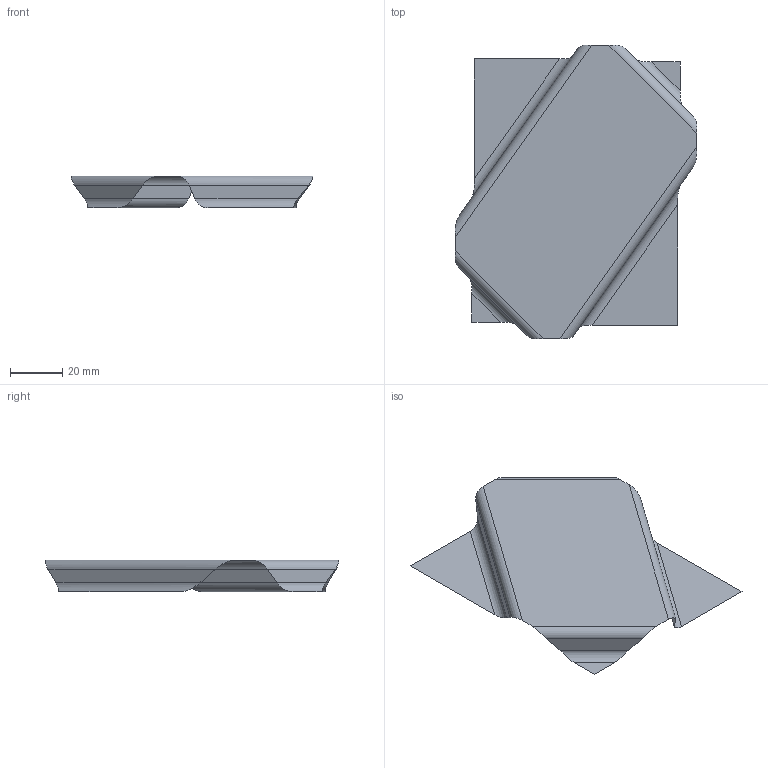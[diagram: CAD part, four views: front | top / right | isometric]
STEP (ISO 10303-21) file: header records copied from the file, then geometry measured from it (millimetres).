
FILE_DESCRIPTION(('CATIA V5 STEP Exchange'),'2;1');
FILE_NAME('C:\_Andres\UNIVERSIDAD\IQS\ASIGNATURAS\DAO\EXF\EXF-15161c\1original\Busquet_Ribera_Ej03-chapa_v3.stp','2016-03-04T16:55:38+00:00',('none'),('none'),'CATIA Version 5 Release 20 SP 1 (IN-10)','CATIA V5 STEP AP203','none');
FILE_SCHEMA(('CONFIG_CONTROL_DESIGN'));
Length unit declared in the file: millimetre
Products named in the file (1): Busquet_Ribera_Ej03-chapa_v3
Bounding box: 93.01 x 113.01 x 12.29 mm (x, y, z)
Surface area: 10545.7 mm2 (no closed solid volume)
Topology: 0 solids, 1 shells, 17 faces, 52 edges, 36 vertices
Faces by surface type: plane 9, cylinder 8
Entity records: 622 total; most frequent: CARTESIAN_POINT 203, ORIENTED_EDGE 68, DIRECTION 56, EDGE_CURVE 52, VERTEX_POINT 36, B_SPLINE_CURVE_WITH_KNOTS 32, VECTOR 20, LINE 20
